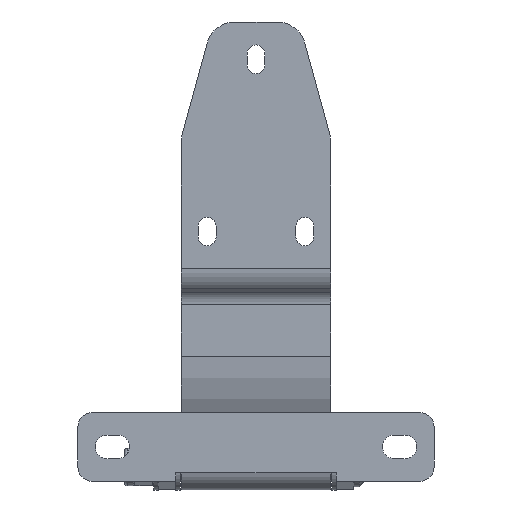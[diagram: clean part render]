
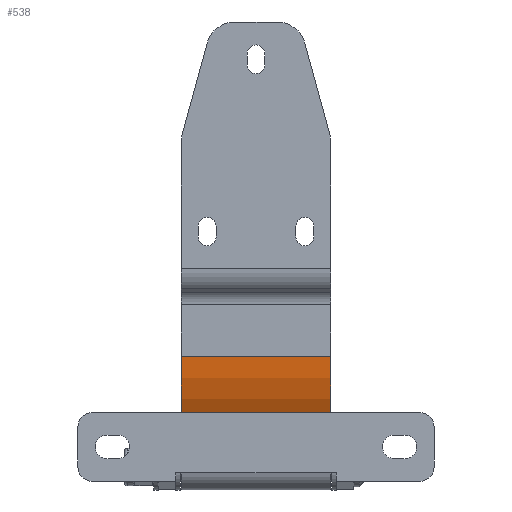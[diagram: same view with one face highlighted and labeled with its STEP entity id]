
A CAD part, front view. The second image highlights one B-rep face of the part: STEP entity #538.
In plain terms, the highlighted cylindrical face has radius 44 mm (diameter 88 mm), a partial arc.
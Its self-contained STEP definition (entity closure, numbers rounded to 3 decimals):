
#538 = ADVANCED_FACE ( 'NONE', ( #3418 ), #3431, .T. ) ;
#539 = ORIENTED_EDGE ( 'NONE', *, *, #540, .T. ) ;
#540 = EDGE_CURVE ( 'NONE', #542, #558, #3417, .T. ) ;
#542 = VERTEX_POINT ( 'NONE', #3394 ) ;
#557 = ORIENTED_EDGE ( 'NONE', *, *, #661, .F. ) ;
#558 = VERTEX_POINT ( 'NONE', #2991 ) ;
#562 = ORIENTED_EDGE ( 'NONE', *, *, #663, .T. ) ;
#563 = VERTEX_POINT ( 'NONE', #2856 ) ;
#564 = EDGE_LOOP ( 'NONE', ( #562, #539, #681, #557 ) ) ;
#565 = VERTEX_POINT ( 'NONE', #2855 ) ;
#661 = EDGE_CURVE ( 'NONE', #565, #563, #5286, .T. ) ;
#663 = EDGE_CURVE ( 'NONE', #565, #542, #5272, .T. ) ;
#677 = EDGE_CURVE ( 'NONE', #563, #558, #5332, .T. ) ;
#681 = ORIENTED_EDGE ( 'NONE', *, *, #677, .F. ) ;
#2855 = CARTESIAN_POINT ( 'NONE',  ( 26., -4.113, 10.813 ) ) ;
#2856 = CARTESIAN_POINT ( 'NONE',  ( -26., -4.113, 10.813 ) ) ;
#2991 = CARTESIAN_POINT ( 'NONE',  ( -26., -14., 38.604 ) ) ;
#3394 = CARTESIAN_POINT ( 'NONE',  ( 26., -14., 38.604 ) ) ;
#3395 = DIRECTION ( 'NONE',  ( -1., 0., 0. ) ) ;
#3396 = VECTOR ( 'NONE', #3395, 1000. ) ;
#3399 = DIRECTION ( 'NONE',  ( 0., 0., 1. ) ) ;
#3400 = DIRECTION ( 'NONE',  ( -1., 0., 0. ) ) ;
#3401 = CARTESIAN_POINT ( 'NONE',  ( 26., 30., 38.604 ) ) ;
#3416 = CARTESIAN_POINT ( 'NONE',  ( 0., -14., 38.604 ) ) ;
#3417 = LINE ( 'NONE', #3416, #3396 ) ;
#3418 = FACE_OUTER_BOUND ( 'NONE', #564, .T. ) ;
#3423 = AXIS2_PLACEMENT_3D ( 'NONE', #3401, #3400, #3399 ) ;
#3431 = CYLINDRICAL_SURFACE ( 'NONE', #3423, 44. ) ;
#5207 = AXIS2_PLACEMENT_3D ( 'NONE', #5231, #5275, #5320 ) ;
#5231 = CARTESIAN_POINT ( 'NONE',  ( 26., 30., 38.604 ) ) ;
#5233 = AXIS2_PLACEMENT_3D ( 'NONE', #5314, #5336, #5334 ) ;
#5272 = CIRCLE ( 'NONE', #5207, 44. ) ;
#5275 = DIRECTION ( 'NONE',  ( -1., 0., 0. ) ) ;
#5286 = LINE ( 'NONE', #5306, #5315 ) ;
#5306 = CARTESIAN_POINT ( 'NONE',  ( 0., -4.113, 10.813 ) ) ;
#5314 = CARTESIAN_POINT ( 'NONE',  ( -26., 30., 38.604 ) ) ;
#5315 = VECTOR ( 'NONE', #5364, 1000. ) ;
#5320 = DIRECTION ( 'NONE',  ( 0., 0., 1. ) ) ;
#5332 = CIRCLE ( 'NONE', #5233, 44. ) ;
#5334 = DIRECTION ( 'NONE',  ( 0., 0., 1. ) ) ;
#5336 = DIRECTION ( 'NONE',  ( -1., 0., 0. ) ) ;
#5364 = DIRECTION ( 'NONE',  ( -1., 0., 0. ) ) ;
